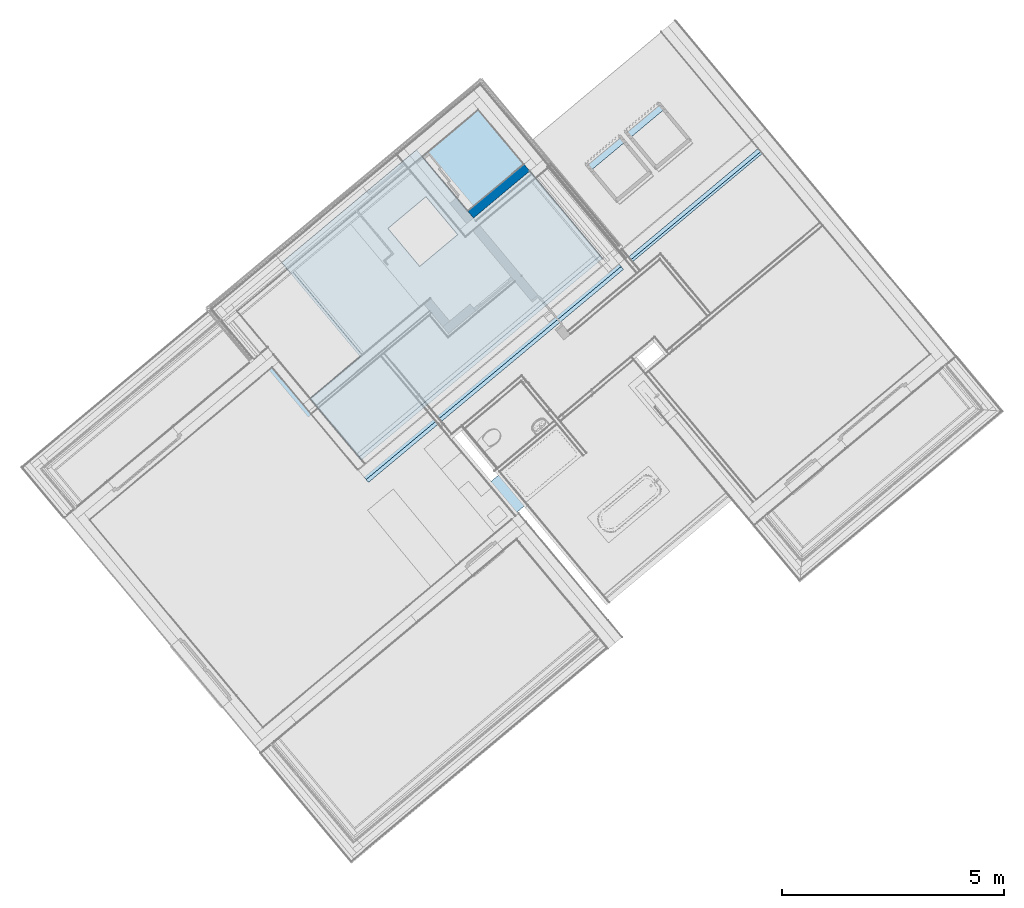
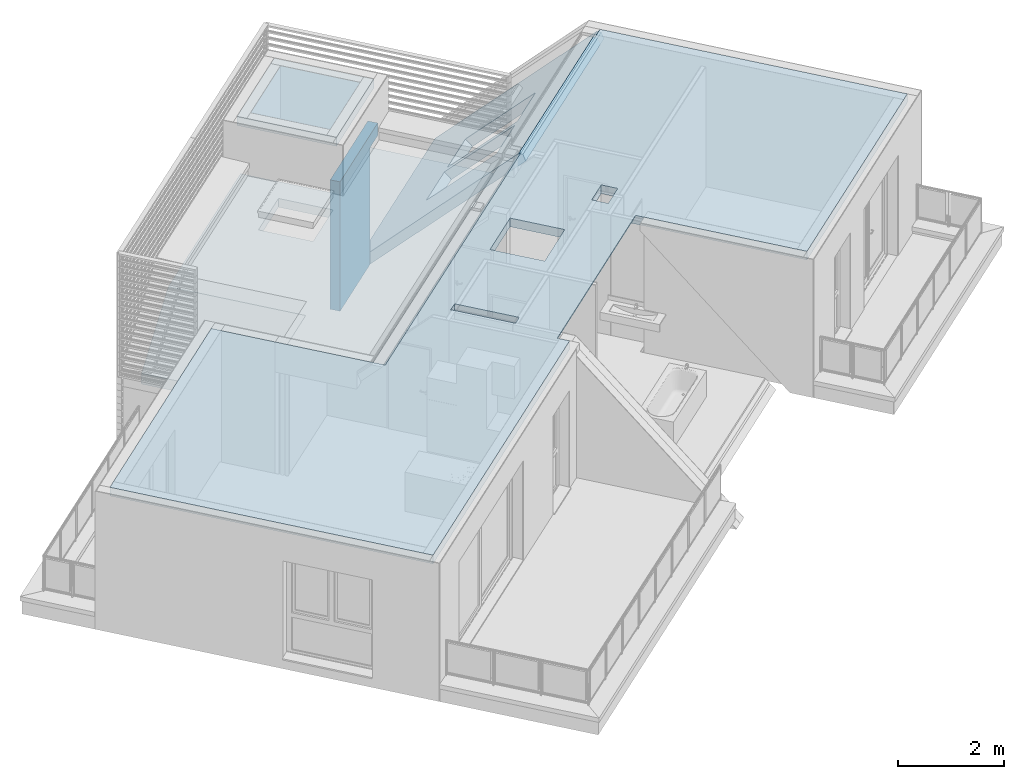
# One storey, part 7 of 50: 6 roofs, 1 wall.
"""IFC4 building model written with IfcOpenShell, lengths in metres."""

from ifc_helpers import new_model, entity, si_unit, converted_unit, derived_unit, direction, frame, origin_with_axes, place, context, subcontext, project, spatial, polygons, material, type_object, element, save


model = new_model("IFC4")

# Units and contexts
model_context = context("Model", 3, precision=1e-05, world=origin_with_axes(), true_north=direction((0.0, 1.0)))
body_context = subcontext(model_context, "Body", "Model", "MODEL_VIEW")
ifc_project = project(units=[si_unit("LENGTHUNIT", "METRE"), si_unit("AREAUNIT", "SQUARE_METRE"), si_unit("VOLUMEUNIT", "CUBIC_METRE"), converted_unit("PLANEANGLEUNIT", "DEGREE", entity("IfcPlaneAngleMeasure", 0.0174532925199), si_unit("PLANEANGLEUNIT", "RADIAN"), dimensions=[0, 0, 0, 0, 0, 0, 0]), converted_unit("TIMEUNIT", "Year", entity("IfcTimeMeasure", 31556926.0), si_unit("TIMEUNIT", "SECOND"), dimensions=[0, 0, 1, 0, 0, 0, 0]), si_unit("MASSUNIT", "GRAM", prefix="KILO"), si_unit("THERMODYNAMICTEMPERATUREUNIT", "DEGREE_CELSIUS"), si_unit("LUMINOUSINTENSITYUNIT", "LUMEN"), si_unit("ENERGYUNIT", "JOULE", prefix="MEGA"), derived_unit("THERMALCONDUCTANCEUNIT", [(si_unit("POWERUNIT", "WATT"), 1), (si_unit("LENGTHUNIT", "METRE"), -1), (si_unit("THERMODYNAMICTEMPERATUREUNIT", "KELVIN"), -1)]), derived_unit("SPECIFICHEATCAPACITYUNIT", [(si_unit("ENERGYUNIT", "JOULE"), 1), (si_unit("MASSUNIT", "GRAM", prefix="KILO"), -1), (si_unit("THERMODYNAMICTEMPERATUREUNIT", "KELVIN"), -1)]), derived_unit("MASSDENSITYUNIT", [(si_unit("MASSUNIT", "GRAM", prefix="KILO"), 1), (si_unit("VOLUMEUNIT", "CUBIC_METRE"), -1)])], contexts=[model_context])

# Site, building, storey, space
site_placement = place(None, frame((-0.00153261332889, -0.00661245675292, 0.0), z_axis=(0.0, 0.0, 1.0), x_axis=(1.0, 0.0, 0.0)))
site = spatial("IfcSite", under=ifc_project, at=site_placement, Name="Gelände", CompositionType="ELEMENT")
building_placement = place(site_placement, origin_with_axes())
building = spatial("IfcBuilding", under=site, at=building_placement, Name="Gebäude", CompositionType="ELEMENT")
storey_placement = place(building_placement, frame((0.0, 0.0, 8.66), z_axis=(0.0, 0.0, 1.0), x_axis=(1.0, 0.0, 0.0)))
storey = spatial("IfcBuildingStorey", under=building, at=storey_placement, Name="DG2", CompositionType="ELEMENT", Elevation=8.66)
space_1_placement = place(storey_placement, frame((2.62853065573, 25.842931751, 0.00145373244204), z_axis=(0.0, 0.0, 1.0), x_axis=(-0.641209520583, 0.767365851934, 0.0)))
space_1 = spatial("IfcSpace", under=storey, at=space_1_placement, CompositionType="ELEMENT", PredefinedType="NOTDEFINED")

# Wall
ifc_material_1 = material(Name="Stahlbeton Wand")
wall_type = type_object("IfcWallType", Name="Stahlbeton Wand 200", PredefinedType="NOTDEFINED")
wall_placement = place(space_1_placement, frame((-0.200130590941, -0.416034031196, -0.00145373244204), z_axis=(0.0, 0.0, 1.0), x_axis=(7.62104648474e-05, 0.999999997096, 0.0)))
element("IfcWall", 1, at=wall_placement, inside=space_1, type_object=wall_type, material=ifc_material_1, Name="Wand-003", PredefinedType="NOTDEFINED", context=body_context, shape_type="Tessellation", body=[
    polygons([(2.06569723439, 0.0, 0.0), (0.415000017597, 0.0, 0.0), (0.415000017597, 0.0, 2.69), (0.0, 0.0, 2.69), (0.0, 0.0, 2.98), (2.06569723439, 0.0, 2.98), (0.415015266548, -0.2, 0.0), (0.414999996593, -5.85682434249e-05, 0.0), (2.06562357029, -0.2, 0.0), (0.414999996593, -5.85682434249e-05, 2.69), (0.415015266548, -0.2, 2.69), (0.0, -0.2, 2.69), (0.0, -0.2, 2.98), (2.06562357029, -0.2, 2.98)], [[[1, 2, 3, 4, 5, 6]], [[7, 8, 2, 1, 9]], [[10, 3, 2, 8]], [[11, 12, 4, 3, 10]], [[5, 4, 12, 13]], [[14, 6, 5, 13]], [[9, 1, 6, 14]], [[10, 8, 7, 11]], [[12, 11, 7, 9, 14, 13]]], closed=True),
])

# Roof
ifc_material_2 = material(Name="Stahlbeton Decke")
roof_type_1 = type_object("IfcRoofType", Name="Stahlbeton Decke 200", PredefinedType="NOTDEFINED")
roof_1_placement = place(space_1_placement, frame((-2.5051010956, 5.0552078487, 2.48854626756), z_axis=(0.0, 0.0, 1.0), x_axis=(-0.00025521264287, -0.999999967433, 0.0)))
element("IfcRoof", 2, at=roof_1_placement, inside=space_1, type_object=roof_type_1, material=ifc_material_2, Name="Dach-002", PredefinedType="NOTDEFINED", context=body_context, shape_type="Tessellation", body=[
    polygons([(-0.555171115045, 4.30609490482, 0.2), (-0.554466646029, 1.54577313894, 0.2), (-2.02612050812, 1.54535500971, 0.2), (-2.02579644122, -0.174320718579, 0.2), (5.05510968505, -0.172963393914, 0.2), (5.05565338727, 2.30641503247, 0.2), (3.4050586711, 2.30677699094, 0.2), (3.4054973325, 4.30701724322, 0.2), (1.78300213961, 2.2545607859, 0.2), (1.7827743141, 3.35273443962, 0.2), (2.88262695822, 3.35296261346, 0.2), (2.88285478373, 2.25478895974, 0.2), (-0.492111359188, 4.30610959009, -1.86265225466e-10), (-0.491406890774, 1.54579105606, -1.86265225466e-10), (-2.0261205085, 1.54535500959, -1.86265225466e-10), (-2.0257808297, -0.25716343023, -1.86265225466e-10), (5.05509151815, -0.255806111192, -1.86265225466e-10), (5.05565338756, 2.30641503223, -1.86265225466e-10), (3.40505867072, 2.30677699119, -1.86265225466e-10), (3.4054973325, 4.30701724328, -1.86265225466e-10), (1.78300213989, 2.25456078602, -1.86265225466e-10), (1.7827743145, 3.35273443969, -1.86265225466e-10), (2.88262695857, 3.35296261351, -1.86265225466e-10), (2.88285478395, 2.25478895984, -1.86265225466e-10)], [[[1, 2, 3, 4, 5, 6, 7, 8], [9, 10, 11, 12]], [[2, 1, 13, 14]], [[3, 2, 14, 15]], [[4, 3, 15, 16]], [[5, 4, 16, 17]], [[6, 5, 17, 18]], [[7, 6, 18, 19]], [[8, 7, 19, 20]], [[1, 8, 20, 13]], [[10, 9, 21, 22]], [[11, 10, 22, 23]], [[12, 11, 23, 24]], [[9, 12, 24, 21]], [[14, 13, 20, 19, 18, 17, 16, 15], [22, 21, 24, 23]]], closed=True),
])

# Space
space_2_placement = place(storey_placement, frame((1.05261882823, 19.7011137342, 0.0), z_axis=(0.0, 0.0, 1.0), x_axis=(0.642552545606, -0.766241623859, 0.0)))
space_2 = spatial("IfcSpace", under=storey, at=space_2_placement, CompositionType="ELEMENT", PredefinedType="NOTDEFINED")

# Roofs
roof_2_placement = place(space_2_placement, frame((-4.042604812, -7.68657787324, 2.98), z_axis=(0.0, 0.0, 1.0), x_axis=(0.00175145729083, 0.999998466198, 0.0)))
element("IfcRoof", 3, at=roof_2_placement, inside=space_2, type_object=roof_type_1, material=ifc_material_2, Name="Dach-002", PredefinedType="NOTDEFINED", context=body_context, shape_type="Tessellation", body=[
    polygons([(5.56001774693, -1.48582036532, 0.2), (5.56011220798, 1.74280188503e-07, 0.2), (-2.73163571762e-08, -3.26907816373e-08, 0.2), (7.51573843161e-08, -6.49219516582, 0.2), (7.50715595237, -6.48730618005, 0.2), (7.5071167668, -6.23732973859, 0.2), (11.8069092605, -6.23495378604, 0.2), (11.8085739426, -9.67906324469, 0.2), (17.3223076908, -9.67547248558, 0.2), (17.3221145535, -3.5001391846, 0.2), (13.0408753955, -3.4959713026, 0.2), (5.56060277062, -3.4954963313, 0.2), (7.90227290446, -5.32986696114, 0.2), (7.69592476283, -5.32986712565, 0.2), (7.69364656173, -4.02913578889, 0.2), (7.90227307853, -4.02986691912, 0.2), (9.80897215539, -5.14230944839, 0.2), (9.80902458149, -4.04413596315, 0.2), (10.9088771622, -4.04418836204, 0.2), (10.9088247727, -5.1423622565, 0.2), (12.0004975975, -5.61633358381, 0.2), (12.0004976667, -5.28363191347, 0.2), (12.5246666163, -5.28363199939, 0.2), (12.5240129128, -5.61633342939, 0.2), (5.56011220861, 1.743285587e-07, -1.86265225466e-10), (5.56001774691, -1.48582036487, -1.86265225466e-10), (-2.75272293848e-08, -3.23356701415e-08, -1.86265225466e-10), (7.47987449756e-08, -6.49219516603, -1.86267001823e-10), (7.50715595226, -6.48730618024, -1.86267001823e-10), (7.50710378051, -6.15448702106, -1.86267001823e-10), (11.8068692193, -6.15211108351, -1.86267001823e-10), (11.8085739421, -9.67906324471, -1.86267001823e-10), (17.3223076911, -9.67547248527, -1.86267001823e-10), (17.3221171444, -3.58298193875, -1.86265225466e-10), (13.040832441, -3.57881401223, -1.86265225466e-10), (5.56062688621, -3.57833904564, -1.86265225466e-10), (7.69592476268, -5.32986712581, -1.86267001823e-10), (7.90227290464, -5.32986696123, -1.86267001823e-10), (7.69364656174, -4.02913578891, -1.86265225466e-10), (7.90227307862, -4.02986691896, -1.86265225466e-10), (9.80902458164, -4.04413596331, -1.86265225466e-10), (9.80897215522, -5.14230944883, -1.86267001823e-10), (10.9088771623, -4.0441883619, -1.86265225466e-10), (10.9088247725, -5.14236225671, -1.86267001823e-10), (12.0004976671, -5.28363191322, -1.86267001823e-10), (12.0004975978, -5.61633358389, -1.86267001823e-10), (12.5246666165, -5.28363199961, -1.86267001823e-10), (12.5240129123, -5.61633342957, -1.86267001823e-10)], [[[1, 2, 3, 4, 5, 6, 7, 8, 9, 10, 11, 12], [13, 14, 15, 16], [17, 18, 19, 20], [21, 22, 23, 24]], [[25, 2, 1, 26]], [[27, 3, 2, 25]], [[28, 4, 3, 27]], [[29, 5, 4, 28]], [[30, 6, 5, 29]], [[31, 7, 6, 30]], [[32, 8, 7, 31]], [[33, 9, 8, 32]], [[34, 10, 9, 33]], [[35, 11, 10, 34]], [[36, 12, 11, 35]], [[26, 1, 12, 36]], [[37, 14, 13, 38]], [[39, 15, 14, 37]], [[40, 16, 15, 39]], [[38, 13, 16, 40]], [[41, 18, 17, 42]], [[43, 19, 18, 41]], [[44, 20, 19, 43]], [[42, 17, 20, 44]], [[45, 22, 21, 46]], [[47, 23, 22, 45]], [[48, 24, 23, 47]], [[46, 21, 24, 48]], [[28, 27, 25, 26, 36, 35, 34, 33, 32, 31, 30, 29], [48, 47, 45, 46], [44, 43, 41, 42], [40, 39, 37, 38]]], closed=True),
])
ifc_material_3 = material(Name="Stahlbeton Dach")
roof_type_2 = type_object("IfcRoofType", Name="Stahlbeton Dach 200", PredefinedType="NOTDEFINED")
roof_3_placement = place(space_1_placement, frame((-0.20000232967, -0.201033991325, 3.92854626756), z_axis=(0.0, 0.0, 1.0), x_axis=(-2.02316908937e-06, 0.999999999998, 0.0)))
element("IfcRoof", 4, at=roof_3_placement, inside=space_1, type_object=roof_type_2, material=ifc_material_3, Name="Dach-002", PredefinedType="NOTDEFINED", context=body_context, shape_type="Tessellation", body=[
    polygons([(0.0, 0.0, 0.2), (0.0, 0.0, 0.0), (-3.73865736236e-06, -2.00114414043, 0.0), (-3.73865736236e-06, -2.00114414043, 0.2), (2.04968259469, 0.0, 0.2), (2.04968259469, 0.0, 0.0), (2.04955288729, -2.00114828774, 0.0), (2.04955288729, -2.00114828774, 0.2)], [[[1, 2, 3, 4]], [[5, 6, 2, 1]], [[3, 2, 6, 7]], [[4, 3, 7, 8]], [[5, 1, 4, 8]], [[8, 7, 6, 5]]], closed=True),
])

# Space
space_3_placement = place(storey_placement, frame((-3.1056460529, 21.2099336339, 0.22), z_axis=(0.0, 0.0, 1.0), x_axis=(-0.767365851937, -0.641209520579, 0.0)))
space_3 = spatial("IfcSpace", under=storey, at=space_3_placement, CompositionType="ELEMENT", PredefinedType="NOTDEFINED")

# Roof
roof_4_placement = place(space_3_placement, frame((0.125000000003, 1.28496112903, 0.671635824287), z_axis=(0.0, 0.0, 1.0), x_axis=(-0.999999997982, 6.35246525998e-05, 0.0)))
element("IfcRoof", 5, at=roof_4_placement, inside=space_3, type_object=roof_type_2, material=ifc_material_3, Name="Dach-001", PredefinedType="NOTDEFINED", context=body_context, shape_type="Tessellation", body=[
    polygons([(7.69598614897, -1.51548652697, 1.79832923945), (0.215350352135, -1.51552146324, 1.79836417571), (0.215523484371, -2.00552146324, 2.28836417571), (7.69579703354, -2.00552146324, 2.28836417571), (7.69600875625, -1.59832923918, 1.59832923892), (0.215329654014, -1.59836417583, 1.59836417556), (0.215502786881, -2.08836417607, 2.0883641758), (7.69581964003, -2.08836417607, 2.0883641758)], [[[1, 2, 3, 4]], [[2, 1, 5, 6]], [[3, 2, 6, 7]], [[4, 3, 7, 8]], [[1, 4, 8, 5]], [[6, 5, 8, 7]]], closed=True),
])

# Space
space_4_placement = place(storey_placement, frame((1.54811484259, 24.5632734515, 0.22), z_axis=(0.0, 0.0, 1.0), x_axis=(0.640845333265, -0.767670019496, 0.0)))
space_4 = spatial("IfcSpace", under=storey, at=space_4_placement, CompositionType="ELEMENT", PredefinedType="NOTDEFINED")

# Roof
roof_5_placement = place(space_4_placement, frame((-0.651627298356, 1.85584992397, -0.853764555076), z_axis=(0.0, 0.0, 1.0), x_axis=(-0.000375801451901, 0.999999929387, 0.0)))
element("IfcRoof", 6, at=roof_5_placement, inside=space_4, type_object=roof_type_2, material=ifc_material_3, Name="Dach-001", PredefinedType="NOTDEFINED", context=body_context, shape_type="Tessellation", body=[
    polygons([(4.27476817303, -3.53466658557, 3.81750929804), (4.07496128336, -3.53449179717, 3.81733450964), (4.07496143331, -3.53597052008, 3.81376455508), (4.27476807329, -3.53621770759, 3.81376455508), (4.27476783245, -3.5309218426, 3.81376455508), (4.07496093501, -3.5309218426, 3.81376455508)], [[[1, 2, 3, 4]], [[5, 6, 2, 1]], [[6, 3, 2]], [[6, 5, 4, 3]], [[1, 4, 5]]], closed=True),
    polygons([(4.27446688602, -0.222001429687, 0.504844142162), (4.27476237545, -3.4709218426, 3.75376455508), (4.2747664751, -3.56107050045, 3.75376455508), (4.27476284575, -3.6175092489, 3.61750924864), (4.27446857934, -0.382041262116, 0.382041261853), (-0.00566070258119, -0.223000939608, 0.505843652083), (-0.00645670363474, -3.4709218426, 3.75376455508), (1.86137860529, -2.70569845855, 2.98854117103), (0.861378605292, -2.70569845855, 2.98854117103), (0.861378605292, -1.29432760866, 1.57717032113), (1.86137860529, -1.29432760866, 1.57717032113), (3.01136207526, -2.70569845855, 2.98854117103), (2.01136207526, -2.70569845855, 2.98854117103), (2.01136207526, -1.29655443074, 1.57939714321), (3.01136207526, -1.29655443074, 1.57939714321), (-0.00646710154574, -3.55577403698, 3.75376455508), (-0.00645705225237, -3.61376409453, 3.61376409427), (-0.00566526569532, -0.383040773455, 0.383040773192), (3.01136207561, -1.43797578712, 1.43797578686), (2.01136207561, -1.43797578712, 1.43797578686), (2.01136207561, -2.84711981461, 2.84711981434), (3.01136207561, -2.84711981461, 2.84711981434), (1.86137860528, -1.43574896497, 1.4357489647), (0.861378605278, -1.43574896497, 1.4357489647), (0.861378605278, -2.84711981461, 2.84711981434), (1.86137860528, -2.84711981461, 2.84711981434)], [[[1, 2, 3, 4, 5]], [[6, 7, 2, 1], [8, 9, 10, 11], [12, 13, 14, 15]], [[7, 16, 3, 2]], [[4, 3, 16, 17]], [[5, 4, 17, 18], [19, 20, 21, 22], [23, 24, 25, 26]], [[18, 6, 1, 5]], [[17, 16, 7, 6, 18]], [[25, 9, 8, 26]], [[24, 10, 9, 25]], [[23, 11, 10, 24]], [[26, 8, 11, 23]], [[21, 13, 12, 22]], [[20, 14, 13, 21]], [[19, 15, 14, 20]], [[22, 12, 15, 19]]], closed=True),
])

# Space
space_5_placement = place(storey_placement, frame((0.280300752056, 22.6307267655, 0.22), z_axis=(0.0, 0.0, 1.0), x_axis=(-0.641244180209, 0.767336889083, 0.0)))
space_5 = spatial("IfcSpace", under=storey, at=space_5_placement, CompositionType="ELEMENT", PredefinedType="NOTDEFINED")

# Roof
roof_6_placement = place(space_5_placement, frame((2.7609879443, 3.56617610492, 0.952399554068), z_axis=(0.0, 0.0, 1.0), x_axis=(-0.99999999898, 4.51678759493e-05, 0.0)))
element("IfcRoof", 7, at=roof_6_placement, inside=space_5, type_object=roof_type_2, material=ifc_material_3, Name="Dach-001", PredefinedType="NOTDEFINED", context=body_context, shape_type="Tessellation", body=[
    polygons([(2.76105179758, 1.81866869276, 1.51760044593), (0.000462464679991, 1.81866869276, 1.51760044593), (0.000456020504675, 0.347014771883, 0.487137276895), (2.76082686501, 0.347014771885, 0.487137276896), (2.76104390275, 1.88172845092, 1.31760044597), (0.000462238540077, 1.88172845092, 1.31760044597), (0.000455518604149, 0.34701477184, 0.242982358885), (2.76080933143, 0.34701477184, 0.242982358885)], [[[1, 2, 3, 4]], [[2, 1, 5, 6]], [[3, 2, 6, 7]], [[4, 3, 7, 8]], [[1, 4, 8, 5]], [[6, 5, 8, 7]]], closed=True),
])

save(model, "model.ifc")
